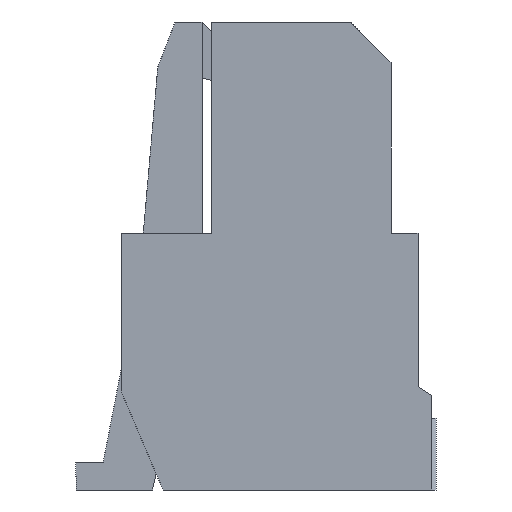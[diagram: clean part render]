
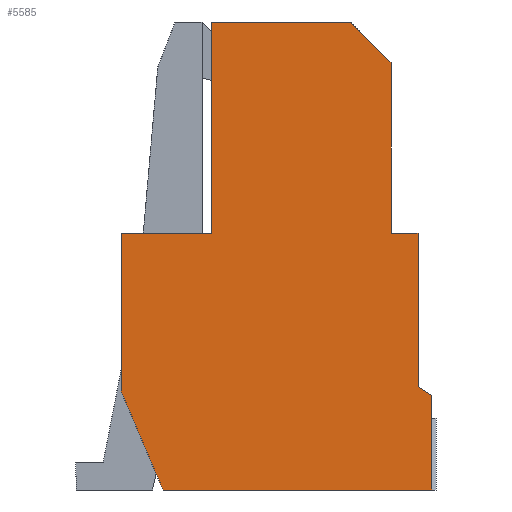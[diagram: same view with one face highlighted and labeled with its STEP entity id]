
A CAD part, left-side view. The second image highlights one B-rep face of the part: STEP entity #5585.
In plain terms, the highlighted planar face has unit normal (-1, 0, 0).
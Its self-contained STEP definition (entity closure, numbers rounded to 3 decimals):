
#279 = CARTESIAN_POINT ( 'NONE',  ( -5.557, -1.732, 0.25 ) ) ;
#423 = LINE ( 'NONE', #7720, #1988 ) ;
#494 = VERTEX_POINT ( 'NONE', #9128 ) ;
#612 = AXIS2_PLACEMENT_3D ( 'NONE', #2704, #3529, #2081 ) ;
#620 = EDGE_CURVE ( 'NONE', #2819, #5977, #7201, .T. ) ;
#662 = DIRECTION ( 'NONE',  ( 0., 0., -1. ) ) ;
#860 = LINE ( 'NONE', #279, #5712 ) ;
#876 = EDGE_CURVE ( 'NONE', #494, #4079, #6606, .T. ) ;
#900 = LINE ( 'NONE', #3852, #1215 ) ;
#1063 = VERTEX_POINT ( 'NONE', #6743 ) ;
#1112 = EDGE_CURVE ( 'NONE', #9186, #494, #8338, .T. ) ;
#1139 = ORIENTED_EDGE ( 'NONE', *, *, #8255, .T. ) ;
#1180 = CARTESIAN_POINT ( 'NONE',  ( -5.557, -2.032, 0.25 ) ) ;
#1215 = VECTOR ( 'NONE', #6126, 1000. ) ;
#1236 = VERTEX_POINT ( 'NONE', #1180 ) ;
#1278 = CARTESIAN_POINT ( 'NONE',  ( -5.557, -2.032, 0.25 ) ) ;
#1597 = CARTESIAN_POINT ( 'NONE',  ( -5.557, 1.268, 0.25 ) ) ;
#1610 = CARTESIAN_POINT ( 'NONE',  ( -5.557, -1.732, 2.15 ) ) ;
#1693 = ORIENTED_EDGE ( 'NONE', *, *, #8596, .T. ) ;
#1713 = CARTESIAN_POINT ( 'NONE',  ( -5.557, 1.768, -2.6 ) ) ;
#1737 = EDGE_CURVE ( 'NONE', #5977, #1236, #5078, .T. ) ;
#1902 = CARTESIAN_POINT ( 'NONE',  ( -5.557, 0.801, -2.6 ) ) ;
#1905 = ORIENTED_EDGE ( 'NONE', *, *, #1915, .F. ) ;
#1915 = EDGE_CURVE ( 'NONE', #2813, #2638, #900, .T. ) ;
#1988 = VECTOR ( 'NONE', #3515, 1000. ) ;
#2027 = EDGE_CURVE ( 'NONE', #2813, #7434, #423, .T. ) ;
#2081 = DIRECTION ( 'NONE',  ( 0., 0., 1. ) ) ;
#2249 = CARTESIAN_POINT ( 'NONE',  ( -5.557, 1.768, 2.6 ) ) ;
#2394 = LINE ( 'NONE', #1713, #2666 ) ;
#2501 = DIRECTION ( 'NONE',  ( 0., 0., 1. ) ) ;
#2545 = DIRECTION ( 'NONE',  ( 0., 0.839, 0.545 ) ) ;
#2638 = VERTEX_POINT ( 'NONE', #1597 ) ;
#2666 = VECTOR ( 'NONE', #6981, 1000. ) ;
#2682 = CARTESIAN_POINT ( 'NONE',  ( -5.557, -2.182, -1.55 ) ) ;
#2704 = CARTESIAN_POINT ( 'NONE',  ( -5.557, 1.768, 2.6 ) ) ;
#2714 = CARTESIAN_POINT ( 'NONE',  ( -5.557, -2.032, -1.453 ) ) ;
#2786 = VERTEX_POINT ( 'NONE', #4892 ) ;
#2792 = ORIENTED_EDGE ( 'NONE', *, *, #7956, .T. ) ;
#2813 = VERTEX_POINT ( 'NONE', #3390 ) ;
#2819 = VERTEX_POINT ( 'NONE', #7110 ) ;
#2903 = CARTESIAN_POINT ( 'NONE',  ( -5.557, 0.268, 0.25 ) ) ;
#2972 = LINE ( 'NONE', #6570, #3766 ) ;
#3045 = LINE ( 'NONE', #2903, #6074 ) ;
#3390 = CARTESIAN_POINT ( 'NONE',  ( -5.557, 1.268, -1.5 ) ) ;
#3424 = VECTOR ( 'NONE', #4564, 1000. ) ;
#3461 = LINE ( 'NONE', #1278, #4699 ) ;
#3515 = DIRECTION ( 'NONE',  ( 0., -0.391, -0.921 ) ) ;
#3529 = DIRECTION ( 'NONE',  ( 1., 0., 0. ) ) ;
#3547 = ORIENTED_EDGE ( 'NONE', *, *, #1737, .T. ) ;
#3611 = VECTOR ( 'NONE', #9185, 1000. ) ;
#3614 = VERTEX_POINT ( 'NONE', #6902 ) ;
#3766 = VECTOR ( 'NONE', #662, 1000. ) ;
#3779 = CARTESIAN_POINT ( 'NONE',  ( -5.557, -1.732, 2.15 ) ) ;
#3852 = CARTESIAN_POINT ( 'NONE',  ( -5.557, 1.268, -2.6 ) ) ;
#4013 = ORIENTED_EDGE ( 'NONE', *, *, #2027, .T. ) ;
#4079 = VERTEX_POINT ( 'NONE', #5886 ) ;
#4107 = CARTESIAN_POINT ( 'NONE',  ( -5.557, -2.182, -2.6 ) ) ;
#4260 = DIRECTION ( 'NONE',  ( 0., 0., 1. ) ) ;
#4389 = ORIENTED_EDGE ( 'NONE', *, *, #620, .T. ) ;
#4415 = EDGE_CURVE ( 'NONE', #4079, #2786, #2972, .T. ) ;
#4564 = DIRECTION ( 'NONE',  ( 0., 0.707, 0.707 ) ) ;
#4699 = VECTOR ( 'NONE', #7964, 1000. ) ;
#4716 = ORIENTED_EDGE ( 'NONE', *, *, #7302, .F. ) ;
#4821 = VECTOR ( 'NONE', #2545, 1000. ) ;
#4892 = CARTESIAN_POINT ( 'NONE',  ( -5.557, 0.268, 0.25 ) ) ;
#5078 = LINE ( 'NONE', #2714, #5198 ) ;
#5157 = ORIENTED_EDGE ( 'NONE', *, *, #876, .T. ) ;
#5198 = VECTOR ( 'NONE', #4260, 1000. ) ;
#5493 = ORIENTED_EDGE ( 'NONE', *, *, #4415, .T. ) ;
#5507 = LINE ( 'NONE', #4107, #3611 ) ;
#5556 = FACE_OUTER_BOUND ( 'NONE', #8960, .T. ) ;
#5585 = ADVANCED_FACE ( 'NONE', ( #5556 ), #5604, .F. ) ;
#5604 = PLANE ( 'NONE',  #612 ) ;
#5712 = VECTOR ( 'NONE', #2501, 1000. ) ;
#5886 = CARTESIAN_POINT ( 'NONE',  ( -5.557, 0.268, 2.6 ) ) ;
#5890 = EDGE_CURVE ( 'NONE', #1063, #9186, #860, .T. ) ;
#5944 = DIRECTION ( 'NONE',  ( 0., 1., 0. ) ) ;
#5977 = VERTEX_POINT ( 'NONE', #8600 ) ;
#6074 = VECTOR ( 'NONE', #5944, 1000. ) ;
#6126 = DIRECTION ( 'NONE',  ( 0., 0., 1. ) ) ;
#6570 = CARTESIAN_POINT ( 'NONE',  ( -5.557, 0.268, 2.6 ) ) ;
#6606 = LINE ( 'NONE', #2249, #7343 ) ;
#6743 = CARTESIAN_POINT ( 'NONE',  ( -5.557, -1.732, 0.25 ) ) ;
#6902 = CARTESIAN_POINT ( 'NONE',  ( -5.557, -2.182, -2.6 ) ) ;
#6981 = DIRECTION ( 'NONE',  ( 0., 1., 0. ) ) ;
#7110 = CARTESIAN_POINT ( 'NONE',  ( -5.557, -2.182, -1.55 ) ) ;
#7171 = ORIENTED_EDGE ( 'NONE', *, *, #1112, .T. ) ;
#7201 = LINE ( 'NONE', #2682, #4821 ) ;
#7302 = EDGE_CURVE ( 'NONE', #3614, #7434, #2394, .T. ) ;
#7343 = VECTOR ( 'NONE', #8689, 1000. ) ;
#7434 = VERTEX_POINT ( 'NONE', #1902 ) ;
#7720 = CARTESIAN_POINT ( 'NONE',  ( -5.557, 1.268, -1.5 ) ) ;
#7956 = EDGE_CURVE ( 'NONE', #2786, #2638, #3045, .T. ) ;
#7964 = DIRECTION ( 'NONE',  ( 0., 1., 0. ) ) ;
#8255 = EDGE_CURVE ( 'NONE', #3614, #2819, #5507, .T. ) ;
#8338 = LINE ( 'NONE', #1610, #3424 ) ;
#8596 = EDGE_CURVE ( 'NONE', #1236, #1063, #3461, .T. ) ;
#8600 = CARTESIAN_POINT ( 'NONE',  ( -5.557, -2.032, -1.453 ) ) ;
#8689 = DIRECTION ( 'NONE',  ( 0., 1., 0. ) ) ;
#8960 = EDGE_LOOP ( 'NONE', ( #4716, #1139, #4389, #3547, #1693, #9110, #7171, #5157, #5493, #2792, #1905, #4013 ) ) ;
#9110 = ORIENTED_EDGE ( 'NONE', *, *, #5890, .T. ) ;
#9128 = CARTESIAN_POINT ( 'NONE',  ( -5.557, -1.282, 2.6 ) ) ;
#9185 = DIRECTION ( 'NONE',  ( 0., 0., 1. ) ) ;
#9186 = VERTEX_POINT ( 'NONE', #3779 ) ;
